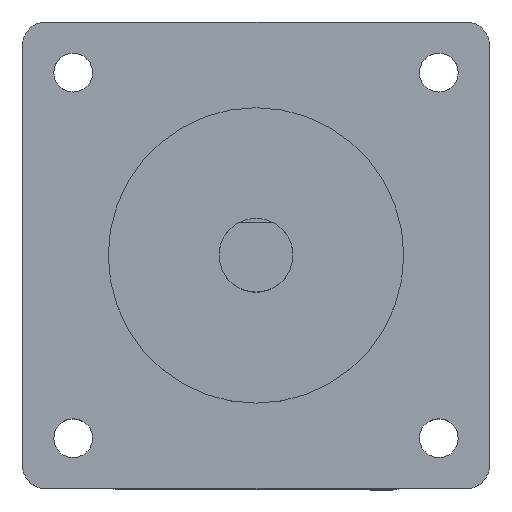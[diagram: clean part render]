
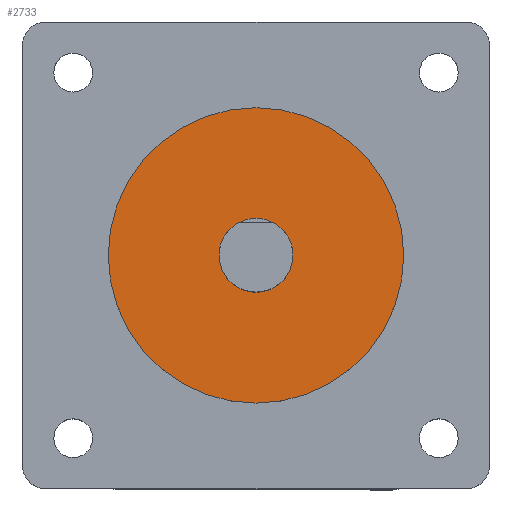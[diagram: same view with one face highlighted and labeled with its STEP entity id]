
A CAD part, top view. The second image highlights one B-rep face of the part: STEP entity #2733.
In plain terms, the highlighted planar face has unit normal (0, 0, 1).
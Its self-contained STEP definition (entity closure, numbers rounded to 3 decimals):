
#37 = DIRECTION ( 'NONE',  ( 1., 0., 0. ) ) ;
#307 = CARTESIAN_POINT ( 'NONE',  ( 4.763, 0., 74.6 ) ) ;
#550 = EDGE_LOOP ( 'NONE', ( #4178, #2632 ) ) ;
#588 = CIRCLE ( 'NONE', #1266, 19.05 ) ;
#592 = EDGE_LOOP ( 'NONE', ( #1137, #2845 ) ) ;
#703 = VERTEX_POINT ( 'NONE', #2279 ) ;
#1035 = EDGE_CURVE ( 'NONE', #703, #2718, #588, .T. ) ;
#1137 = ORIENTED_EDGE ( 'NONE', *, *, #1035, .F. ) ;
#1207 = DIRECTION ( 'NONE',  ( -1., 0., 0. ) ) ;
#1266 = AXIS2_PLACEMENT_3D ( 'NONE', #3598, #4267, #2872 ) ;
#1312 = EDGE_CURVE ( 'NONE', #2244, #2557, #2808, .T. ) ;
#1379 = PLANE ( 'NONE',  #2390 ) ;
#1772 = CARTESIAN_POINT ( 'NONE',  ( 0., 0., 74.6 ) ) ;
#1917 = AXIS2_PLACEMENT_3D ( 'NONE', #3392, #3382, #3718 ) ;
#2104 = FACE_OUTER_BOUND ( 'NONE', #592, .T. ) ;
#2144 = CARTESIAN_POINT ( 'NONE',  ( 19.05, 0., 74.6 ) ) ;
#2244 = VERTEX_POINT ( 'NONE', #3278 ) ;
#2279 = CARTESIAN_POINT ( 'NONE',  ( -19.05, 0., 74.6 ) ) ;
#2283 = EDGE_CURVE ( 'NONE', #2718, #703, #3733, .T. ) ;
#2390 = AXIS2_PLACEMENT_3D ( 'NONE', #1772, #3123, #37 ) ;
#2557 = VERTEX_POINT ( 'NONE', #307 ) ;
#2603 = CARTESIAN_POINT ( 'NONE',  ( 0., 0., 74.6 ) ) ;
#2632 = ORIENTED_EDGE ( 'NONE', *, *, #3236, .T. ) ;
#2640 = DIRECTION ( 'NONE',  ( 1., 0., 0. ) ) ;
#2718 = VERTEX_POINT ( 'NONE', #2144 ) ;
#2733 = ADVANCED_FACE ( 'NONE', ( #3894, #2104 ), #1379, .T. ) ;
#2808 = CIRCLE ( 'NONE', #1917, 4.763 ) ;
#2845 = ORIENTED_EDGE ( 'NONE', *, *, #2283, .F. ) ;
#2872 = DIRECTION ( 'NONE',  ( -1., 0., 0. ) ) ;
#3001 = DIRECTION ( 'NONE',  ( 0., 0., -1. ) ) ;
#3123 = DIRECTION ( 'NONE',  ( 0., 0., 1. ) ) ;
#3236 = EDGE_CURVE ( 'NONE', #2557, #2244, #4320, .T. ) ;
#3278 = CARTESIAN_POINT ( 'NONE',  ( -4.763, 0., 74.6 ) ) ;
#3286 = DIRECTION ( 'NONE',  ( 0., 0., -1. ) ) ;
#3293 = CARTESIAN_POINT ( 'NONE',  ( 0., 0., 74.6 ) ) ;
#3382 = DIRECTION ( 'NONE',  ( 0., 0., -1. ) ) ;
#3392 = CARTESIAN_POINT ( 'NONE',  ( 0., 0., 74.6 ) ) ;
#3598 = CARTESIAN_POINT ( 'NONE',  ( 0., 0., 74.6 ) ) ;
#3718 = DIRECTION ( 'NONE',  ( 1., 0., 0. ) ) ;
#3733 = CIRCLE ( 'NONE', #3771, 19.05 ) ;
#3771 = AXIS2_PLACEMENT_3D ( 'NONE', #2603, #3286, #1207 ) ;
#3894 = FACE_BOUND ( 'NONE', #550, .T. ) ;
#4161 = AXIS2_PLACEMENT_3D ( 'NONE', #3293, #3001, #2640 ) ;
#4178 = ORIENTED_EDGE ( 'NONE', *, *, #1312, .T. ) ;
#4267 = DIRECTION ( 'NONE',  ( 0., 0., -1. ) ) ;
#4320 = CIRCLE ( 'NONE', #4161, 4.763 ) ;
